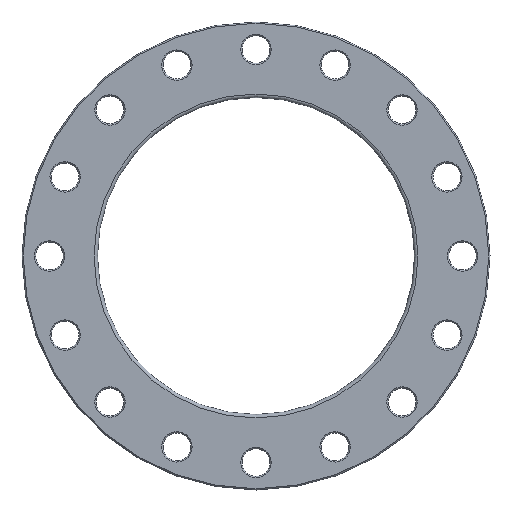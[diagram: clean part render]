
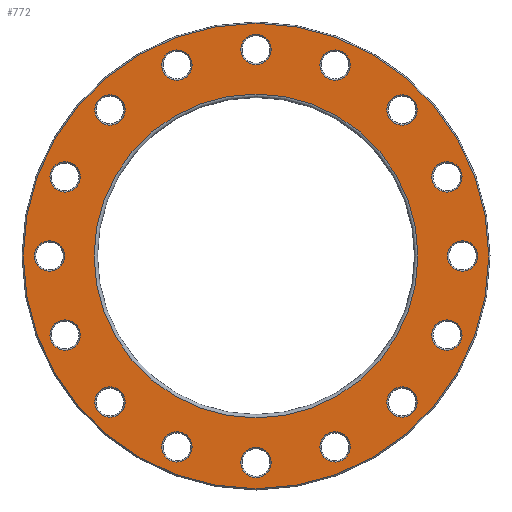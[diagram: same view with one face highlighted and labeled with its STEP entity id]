
A CAD part, front view. The second image highlights one B-rep face of the part: STEP entity #772.
In plain terms, the highlighted planar face has unit normal (0, -1, 0).
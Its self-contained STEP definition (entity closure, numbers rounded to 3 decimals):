
#23=PLANE('',#908);
#170=ORIENTED_EDGE('',*,*,#269,.T.);
#171=ORIENTED_EDGE('',*,*,#270,.T.);
#172=ORIENTED_EDGE('',*,*,#204,.T.);
#173=ORIENTED_EDGE('',*,*,#208,.T.);
#174=ORIENTED_EDGE('',*,*,#212,.T.);
#175=ORIENTED_EDGE('',*,*,#216,.T.);
#176=ORIENTED_EDGE('',*,*,#220,.T.);
#177=ORIENTED_EDGE('',*,*,#224,.T.);
#178=ORIENTED_EDGE('',*,*,#228,.T.);
#179=ORIENTED_EDGE('',*,*,#232,.T.);
#180=ORIENTED_EDGE('',*,*,#236,.T.);
#181=ORIENTED_EDGE('',*,*,#240,.T.);
#182=ORIENTED_EDGE('',*,*,#244,.T.);
#183=ORIENTED_EDGE('',*,*,#248,.T.);
#184=ORIENTED_EDGE('',*,*,#252,.T.);
#185=ORIENTED_EDGE('',*,*,#256,.T.);
#186=ORIENTED_EDGE('',*,*,#260,.T.);
#187=ORIENTED_EDGE('',*,*,#271,.T.);
#204=EDGE_CURVE('',#276,#276,#348,.T.);
#208=EDGE_CURVE('',#280,#280,#352,.T.);
#212=EDGE_CURVE('',#284,#284,#356,.T.);
#216=EDGE_CURVE('',#288,#288,#360,.T.);
#220=EDGE_CURVE('',#292,#292,#364,.T.);
#224=EDGE_CURVE('',#296,#296,#368,.T.);
#228=EDGE_CURVE('',#300,#300,#372,.T.);
#232=EDGE_CURVE('',#304,#304,#376,.T.);
#236=EDGE_CURVE('',#308,#308,#380,.T.);
#240=EDGE_CURVE('',#312,#312,#384,.T.);
#244=EDGE_CURVE('',#316,#316,#388,.T.);
#248=EDGE_CURVE('',#320,#320,#392,.T.);
#252=EDGE_CURVE('',#324,#324,#396,.T.);
#256=EDGE_CURVE('',#328,#328,#400,.T.);
#260=EDGE_CURVE('',#332,#332,#404,.T.);
#269=EDGE_CURVE('',#341,#341,#413,.F.);
#270=EDGE_CURVE('',#342,#342,#414,.T.);
#271=EDGE_CURVE('',#343,#343,#415,.T.);
#276=VERTEX_POINT('',#1187);
#280=VERTEX_POINT('',#1198);
#284=VERTEX_POINT('',#1209);
#288=VERTEX_POINT('',#1220);
#292=VERTEX_POINT('',#1231);
#296=VERTEX_POINT('',#1242);
#300=VERTEX_POINT('',#1253);
#304=VERTEX_POINT('',#1264);
#308=VERTEX_POINT('',#1275);
#312=VERTEX_POINT('',#1286);
#316=VERTEX_POINT('',#1297);
#320=VERTEX_POINT('',#1308);
#324=VERTEX_POINT('',#1319);
#328=VERTEX_POINT('',#1330);
#332=VERTEX_POINT('',#1341);
#341=VERTEX_POINT('',#1364);
#342=VERTEX_POINT('',#1366);
#343=VERTEX_POINT('',#1368);
#348=CIRCLE('',#797,18.);
#352=CIRCLE('',#804,18.);
#356=CIRCLE('',#811,18.);
#360=CIRCLE('',#818,18.);
#364=CIRCLE('',#825,18.);
#368=CIRCLE('',#832,18.);
#372=CIRCLE('',#839,18.);
#376=CIRCLE('',#846,18.);
#380=CIRCLE('',#853,18.);
#384=CIRCLE('',#860,18.);
#388=CIRCLE('',#867,18.);
#392=CIRCLE('',#874,18.);
#396=CIRCLE('',#881,18.);
#400=CIRCLE('',#888,18.);
#404=CIRCLE('',#895,18.);
#413=CIRCLE('',#909,276.);
#414=CIRCLE('',#910,192.);
#415=CIRCLE('',#911,18.);
#530=EDGE_LOOP('',(#170));
#531=EDGE_LOOP('',(#171));
#532=EDGE_LOOP('',(#172));
#533=EDGE_LOOP('',(#173));
#534=EDGE_LOOP('',(#174));
#535=EDGE_LOOP('',(#175));
#536=EDGE_LOOP('',(#176));
#537=EDGE_LOOP('',(#177));
#538=EDGE_LOOP('',(#178));
#539=EDGE_LOOP('',(#179));
#540=EDGE_LOOP('',(#180));
#541=EDGE_LOOP('',(#181));
#542=EDGE_LOOP('',(#182));
#543=EDGE_LOOP('',(#183));
#544=EDGE_LOOP('',(#184));
#545=EDGE_LOOP('',(#185));
#546=EDGE_LOOP('',(#186));
#547=EDGE_LOOP('',(#187));
#674=FACE_BOUND('',#530,.T.);
#675=FACE_BOUND('',#531,.T.);
#676=FACE_BOUND('',#532,.T.);
#677=FACE_BOUND('',#533,.T.);
#678=FACE_BOUND('',#534,.T.);
#679=FACE_BOUND('',#535,.T.);
#680=FACE_BOUND('',#536,.T.);
#681=FACE_BOUND('',#537,.T.);
#682=FACE_BOUND('',#538,.T.);
#683=FACE_BOUND('',#539,.T.);
#684=FACE_BOUND('',#540,.T.);
#685=FACE_BOUND('',#541,.T.);
#686=FACE_BOUND('',#542,.T.);
#687=FACE_BOUND('',#543,.T.);
#688=FACE_BOUND('',#544,.T.);
#689=FACE_BOUND('',#545,.T.);
#690=FACE_BOUND('',#546,.T.);
#691=FACE_BOUND('',#547,.T.);
#772=ADVANCED_FACE('',(#674,#675,#676,#677,#678,#679,#680,#681,#682,#683,
#684,#685,#686,#687,#688,#689,#690,#691),#23,.F.);
#797=AXIS2_PLACEMENT_3D('',#1186,#931,#932);
#804=AXIS2_PLACEMENT_3D('',#1197,#945,#946);
#811=AXIS2_PLACEMENT_3D('',#1208,#959,#960);
#818=AXIS2_PLACEMENT_3D('',#1219,#973,#974);
#825=AXIS2_PLACEMENT_3D('',#1230,#987,#988);
#832=AXIS2_PLACEMENT_3D('',#1241,#1001,#1002);
#839=AXIS2_PLACEMENT_3D('',#1252,#1015,#1016);
#846=AXIS2_PLACEMENT_3D('',#1263,#1029,#1030);
#853=AXIS2_PLACEMENT_3D('',#1274,#1043,#1044);
#860=AXIS2_PLACEMENT_3D('',#1285,#1057,#1058);
#867=AXIS2_PLACEMENT_3D('',#1296,#1071,#1072);
#874=AXIS2_PLACEMENT_3D('',#1307,#1085,#1086);
#881=AXIS2_PLACEMENT_3D('',#1318,#1099,#1100);
#888=AXIS2_PLACEMENT_3D('',#1329,#1113,#1114);
#895=AXIS2_PLACEMENT_3D('',#1340,#1127,#1128);
#908=AXIS2_PLACEMENT_3D('',#1362,#1153,#1154);
#909=AXIS2_PLACEMENT_3D('',#1363,#1155,#1156);
#910=AXIS2_PLACEMENT_3D('',#1365,#1157,#1158);
#911=AXIS2_PLACEMENT_3D('',#1367,#1159,#1160);
#931=DIRECTION('',(0.,1.,0.));
#932=DIRECTION('',(0.924,0.,0.383));
#945=DIRECTION('',(0.,1.,0.));
#946=DIRECTION('',(0.707,0.,0.707));
#959=DIRECTION('',(0.,1.,0.));
#960=DIRECTION('',(0.383,0.,0.924));
#973=DIRECTION('',(0.,1.,0.));
#974=DIRECTION('',(0.,0.,1.));
#987=DIRECTION('',(0.,1.,0.));
#988=DIRECTION('',(-0.383,0.,0.924));
#1001=DIRECTION('',(0.,1.,0.));
#1002=DIRECTION('',(-0.707,0.,0.707));
#1015=DIRECTION('',(0.,1.,0.));
#1016=DIRECTION('',(-0.924,0.,0.383));
#1029=DIRECTION('',(0.,1.,0.));
#1030=DIRECTION('',(-1.,0.,0.));
#1043=DIRECTION('',(0.,1.,0.));
#1044=DIRECTION('',(-0.924,0.,-0.383));
#1057=DIRECTION('',(0.,1.,0.));
#1058=DIRECTION('',(-0.707,0.,-0.707));
#1071=DIRECTION('',(0.,1.,0.));
#1072=DIRECTION('',(-0.383,0.,-0.924));
#1085=DIRECTION('',(0.,1.,0.));
#1086=DIRECTION('',(0.,0.,-1.));
#1099=DIRECTION('',(0.,1.,0.));
#1100=DIRECTION('',(0.383,0.,-0.924));
#1113=DIRECTION('',(0.,1.,0.));
#1114=DIRECTION('',(0.707,0.,-0.707));
#1127=DIRECTION('',(0.,1.,0.));
#1128=DIRECTION('',(0.924,0.,-0.383));
#1153=DIRECTION('',(0.,1.,0.));
#1154=DIRECTION('',(0.,0.,1.));
#1155=DIRECTION('',(0.,1.,0.));
#1156=DIRECTION('',(0.,0.,1.));
#1157=DIRECTION('',(0.,1.,0.));
#1158=DIRECTION('',(0.,0.,1.));
#1159=DIRECTION('',(0.,1.,0.));
#1160=DIRECTION('',(1.,0.,0.));
#1186=CARTESIAN_POINT('',(-93.757,0.,226.35));
#1187=CARTESIAN_POINT('',(-77.128,0.,233.239));
#1197=CARTESIAN_POINT('',(-173.241,0.,173.241));
#1198=CARTESIAN_POINT('',(-160.513,0.,185.969));
#1208=CARTESIAN_POINT('',(-226.35,0.,93.757));
#1209=CARTESIAN_POINT('',(-219.462,0.,110.387));
#1219=CARTESIAN_POINT('',(-245.,0.,0.));
#1220=CARTESIAN_POINT('',(-245.,0.,18.));
#1230=CARTESIAN_POINT('',(-226.35,0.,-93.757));
#1231=CARTESIAN_POINT('',(-233.239,0.,-77.128));
#1241=CARTESIAN_POINT('',(-173.241,0.,-173.241));
#1242=CARTESIAN_POINT('',(-185.969,0.,-160.513));
#1252=CARTESIAN_POINT('',(-93.757,0.,-226.35));
#1253=CARTESIAN_POINT('',(-110.387,0.,-219.462));
#1263=CARTESIAN_POINT('',(0.,0.,-245.));
#1264=CARTESIAN_POINT('',(-18.,0.,-245.));
#1274=CARTESIAN_POINT('',(93.757,0.,-226.35));
#1275=CARTESIAN_POINT('',(77.128,0.,-233.239));
#1285=CARTESIAN_POINT('',(173.241,0.,-173.241));
#1286=CARTESIAN_POINT('',(160.513,0.,-185.969));
#1296=CARTESIAN_POINT('',(226.35,0.,-93.757));
#1297=CARTESIAN_POINT('',(219.462,0.,-110.387));
#1307=CARTESIAN_POINT('',(245.,0.,0.));
#1308=CARTESIAN_POINT('',(245.,0.,-18.));
#1318=CARTESIAN_POINT('',(226.35,0.,93.757));
#1319=CARTESIAN_POINT('',(233.239,0.,77.128));
#1329=CARTESIAN_POINT('',(173.241,0.,173.241));
#1330=CARTESIAN_POINT('',(185.969,0.,160.513));
#1340=CARTESIAN_POINT('',(93.757,0.,226.35));
#1341=CARTESIAN_POINT('',(110.387,0.,219.462));
#1362=CARTESIAN_POINT('',(0.,0.,0.));
#1363=CARTESIAN_POINT('',(0.,0.,0.));
#1364=CARTESIAN_POINT('',(0.,0.,276.));
#1365=CARTESIAN_POINT('',(0.,0.,0.));
#1366=CARTESIAN_POINT('',(0.,0.,192.));
#1367=CARTESIAN_POINT('',(0.,0.,245.));
#1368=CARTESIAN_POINT('',(18.,0.,245.));
